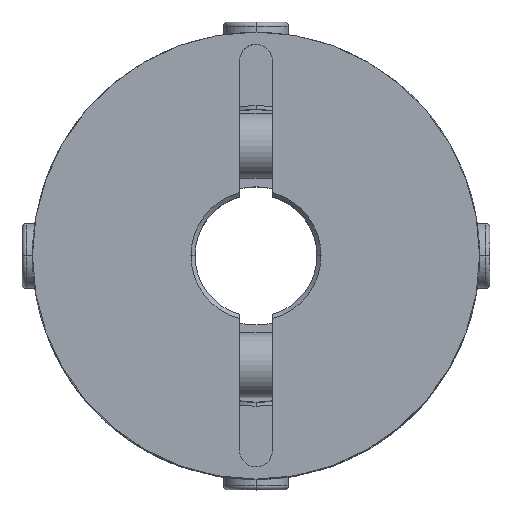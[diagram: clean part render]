
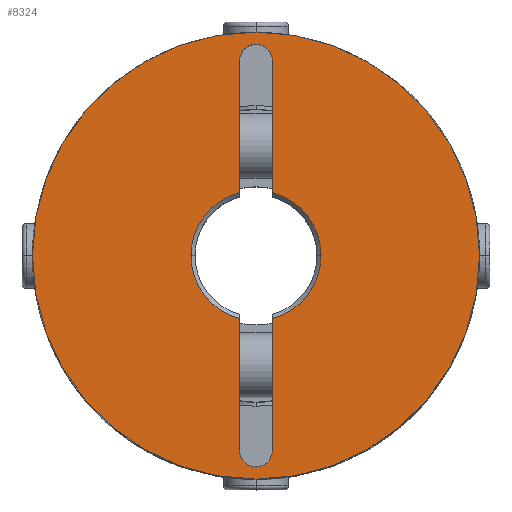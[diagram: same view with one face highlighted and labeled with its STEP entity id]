
A CAD part, top view. The second image highlights one B-rep face of the part: STEP entity #8324.
In plain terms, the highlighted planar face has unit normal (0, 0, 1).
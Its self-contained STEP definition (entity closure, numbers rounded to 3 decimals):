
#632=CARTESIAN_POINT('',(8.,0.,29.0));
#633=VERTEX_POINT('',#632);
#649=CARTESIAN_POINT('',(2.,-7.746,29.0));
#650=VERTEX_POINT('',#649);
#664=CARTESIAN_POINT('',(0.,0.0,29.0));
#665=DIRECTION('',(0.0,0.0,1.0));
#666=DIRECTION('',(-1.0,0.0,0.0));
#667=AXIS2_PLACEMENT_3D('',#664,#665,#666);
#668=CIRCLE('',#667,8.0);
#669=EDGE_CURVE('',#650,#633,#668,.T.);
#831=CARTESIAN_POINT('',(-8.,0.,29.0));
#832=VERTEX_POINT('',#831);
#839=CARTESIAN_POINT('',(-2.,-7.746,29.0));
#840=VERTEX_POINT('',#839);
#841=CARTESIAN_POINT('',(0.,0.0,29.0));
#842=DIRECTION('',(0.0,0.0,1.0));
#843=DIRECTION('',(-1.0,0.0,0.0));
#844=AXIS2_PLACEMENT_3D('',#841,#842,#843);
#845=CIRCLE('',#844,8.0);
#846=EDGE_CURVE('',#832,#840,#845,.T.);
#872=CARTESIAN_POINT('',(-1.414,25.414,29.0));
#873=VERTEX_POINT('',#872);
#889=CARTESIAN_POINT('',(2.,24.,29.0));
#890=VERTEX_POINT('',#889);
#897=CARTESIAN_POINT('',(0.,24.,29.0));
#898=DIRECTION('',(0.0,0.0,1.));
#899=DIRECTION('',(0.707,0.707,0.0));
#900=AXIS2_PLACEMENT_3D('',#897,#898,#899);
#901=CIRCLE('',#900,2.);
#902=EDGE_CURVE('',#890,#873,#901,.T.);
#914=CARTESIAN_POINT('',(1.414,-25.414,29.0));
#915=VERTEX_POINT('',#914);
#931=CARTESIAN_POINT('',(-2.,-24.,29.0));
#932=VERTEX_POINT('',#931);
#939=CARTESIAN_POINT('',(0.,-24.,29.0));
#940=DIRECTION('',(0.0,0.0,1.0));
#941=DIRECTION('',(-0.707,-0.707,0.0));
#942=AXIS2_PLACEMENT_3D('',#939,#940,#941);
#943=CIRCLE('',#942,2.0);
#944=EDGE_CURVE('',#932,#915,#943,.T.);
#1499=CARTESIAN_POINT('',(-27.5,0.,29.0));
#1500=VERTEX_POINT('',#1499);
#1507=CARTESIAN_POINT('',(27.5,0.0,29.0));
#1508=VERTEX_POINT('',#1507);
#1509=CARTESIAN_POINT('',(0.,0.0,29.0));
#1510=DIRECTION('',(0.0,0.0,-1.0));
#1511=DIRECTION('',(1.0,0.0,0.0));
#1512=AXIS2_PLACEMENT_3D('',#1509,#1510,#1511);
#1513=CIRCLE('',#1512,27.5);
#1514=EDGE_CURVE('',#1500,#1508,#1513,.T.);
#7525=CARTESIAN_POINT('',(0.,0.0,29.0));
#7526=DIRECTION('',(0.0,0.0,-1.0));
#7527=DIRECTION('',(1.0,0.0,0.0));
#7528=AXIS2_PLACEMENT_3D('',#7525,#7526,#7527);
#7529=CIRCLE('',#7528,27.5);
#7530=EDGE_CURVE('',#1508,#1500,#7529,.T.);
#8083=CARTESIAN_POINT('',(2.,-24.,29.0));
#8084=VERTEX_POINT('',#8083);
#8085=CARTESIAN_POINT('',(0.,-24.,29.0));
#8086=DIRECTION('',(0.0,0.0,1.0));
#8087=DIRECTION('',(-0.707,-0.707,0.0));
#8088=AXIS2_PLACEMENT_3D('',#8085,#8086,#8087);
#8089=CIRCLE('',#8088,2.0);
#8090=EDGE_CURVE('',#915,#8084,#8089,.T.);
#8108=CARTESIAN_POINT('',(2.,-7.746,29.0));
#8109=DIRECTION('',(0.0,-1.0,0.0));
#8110=VECTOR('',#8109,16.254);
#8111=LINE('',#8108,#8110);
#8112=EDGE_CURVE('',#650,#8084,#8111,.T.);
#8131=CARTESIAN_POINT('',(-2.,24.,29.0));
#8132=VERTEX_POINT('',#8131);
#8133=CARTESIAN_POINT('',(0.,24.,29.0));
#8134=DIRECTION('',(0.0,0.0,1.));
#8135=DIRECTION('',(0.707,0.707,0.0));
#8136=AXIS2_PLACEMENT_3D('',#8133,#8134,#8135);
#8137=CIRCLE('',#8136,2.);
#8138=EDGE_CURVE('',#873,#8132,#8137,.T.);
#8156=CARTESIAN_POINT('',(-2.,7.746,29.0));
#8157=VERTEX_POINT('',#8156);
#8158=CARTESIAN_POINT('',(-2.,7.746,29.0));
#8159=DIRECTION('',(0.0,1.0,0.0));
#8160=VECTOR('',#8159,16.254);
#8161=LINE('',#8158,#8160);
#8162=EDGE_CURVE('',#8157,#8132,#8161,.T.);
#8238=CARTESIAN_POINT('',(2.,7.746,29.0));
#8239=VERTEX_POINT('',#8238);
#8253=CARTESIAN_POINT('',(2.,24.,29.0));
#8254=DIRECTION('',(0.0,-1.0,0.0));
#8255=VECTOR('',#8254,16.254);
#8256=LINE('',#8253,#8255);
#8257=EDGE_CURVE('',#890,#8239,#8256,.T.);
#8276=CARTESIAN_POINT('',(-2.,-24.,29.0));
#8277=DIRECTION('',(0.0,1.0,0.0));
#8278=VECTOR('',#8277,16.254);
#8279=LINE('',#8276,#8278);
#8280=EDGE_CURVE('',#932,#840,#8279,.T.);
#8289=CARTESIAN_POINT('',(2.5,0.,29.0));
#8290=DIRECTION('',(0.0,0.0,1.0));
#8291=DIRECTION('',(1.0,0.0,0.0));
#8292=AXIS2_PLACEMENT_3D('',#8289,#8290,#8291);
#8293=PLANE('',#8292);
#8294=ORIENTED_EDGE('',*,*,#7530,.F.);
#8295=ORIENTED_EDGE('',*,*,#1514,.F.);
#8296=EDGE_LOOP('',(#8294,#8295));
#8297=FACE_OUTER_BOUND('',#8296,.T.);
#8298=ORIENTED_EDGE('',*,*,#8112,.T.);
#8299=ORIENTED_EDGE('',*,*,#8090,.F.);
#8300=ORIENTED_EDGE('',*,*,#944,.F.);
#8301=ORIENTED_EDGE('',*,*,#8280,.T.);
#8302=ORIENTED_EDGE('',*,*,#846,.F.);
#8303=CARTESIAN_POINT('',(0.,0.0,29.0));
#8304=DIRECTION('',(0.0,0.0,1.0));
#8305=DIRECTION('',(-1.0,0.0,0.0));
#8306=AXIS2_PLACEMENT_3D('',#8303,#8304,#8305);
#8307=CIRCLE('',#8306,8.0);
#8308=EDGE_CURVE('',#8157,#832,#8307,.T.);
#8309=ORIENTED_EDGE('',*,*,#8308,.F.);
#8310=ORIENTED_EDGE('',*,*,#8162,.T.);
#8311=ORIENTED_EDGE('',*,*,#8138,.F.);
#8312=ORIENTED_EDGE('',*,*,#902,.F.);
#8313=ORIENTED_EDGE('',*,*,#8257,.T.);
#8314=CARTESIAN_POINT('',(0.,0.0,29.0));
#8315=DIRECTION('',(0.0,0.0,1.0));
#8316=DIRECTION('',(-1.0,0.0,0.0));
#8317=AXIS2_PLACEMENT_3D('',#8314,#8315,#8316);
#8318=CIRCLE('',#8317,8.0);
#8319=EDGE_CURVE('',#633,#8239,#8318,.T.);
#8320=ORIENTED_EDGE('',*,*,#8319,.F.);
#8321=ORIENTED_EDGE('',*,*,#669,.F.);
#8322=EDGE_LOOP('',(#8298,#8299,#8300,#8301,#8302,#8309,#8310,#8311,#8312,#8313,#8320,#8321));
#8323=FACE_BOUND('',#8322,.T.);
#8324=ADVANCED_FACE('',(#8297,#8323),#8293,.T.);
